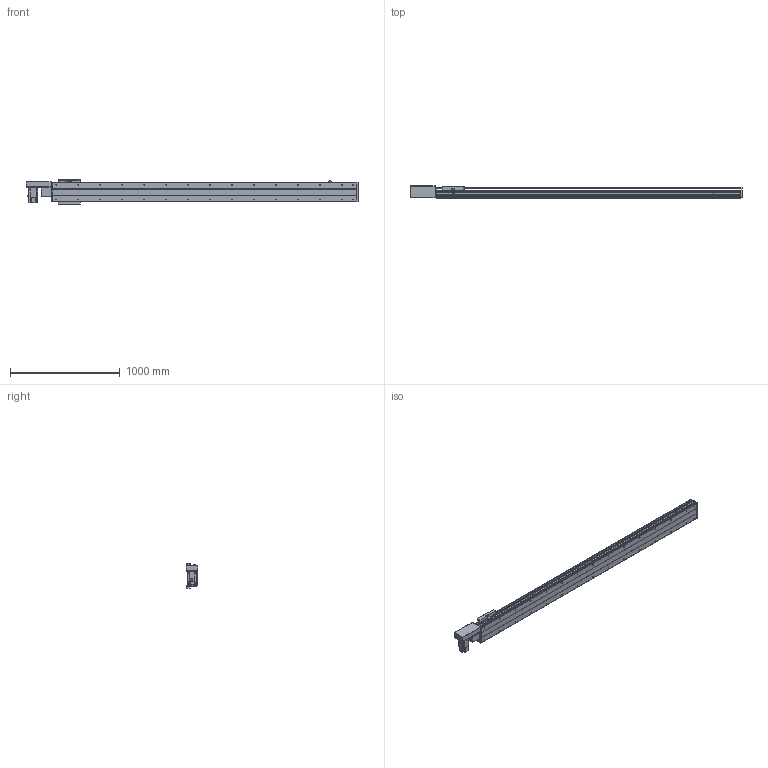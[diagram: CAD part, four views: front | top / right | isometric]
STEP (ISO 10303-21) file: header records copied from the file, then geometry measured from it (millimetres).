
FILE_DESCRIPTION(/* description */ ('STEP AP214'),/* implementation_level */ '2;1');
FILE_NAME(/* name */ 'PBS200-P40-S2400-R-T75-C1-N(0)',/* time_stamp */ '2022-06-11T08:10:30+02:00',/* author */ ('License CC BY-ND 4.0'),/* organization */ ('CADENAS'),/* preprocessor_version */ 'ST-DEVELOPER v18.102',/* originating_system */ 'PARTsolutions',/* authorisation */ ' ');
FILE_SCHEMA (('AUTOMOTIVE_DESIGN {1 0 10303 214 3 1 1}'));
Length unit declared in the file: millimetre
Products named in the file (7): PBS200-P40-S2400-R-T75-C1-N(0); PBS200_sensor; PBS200_plant; PBS200_sliser; T75-p1; PBS200T-R_motors; PBS200-S2400()_body
Assembly tree (8 placements, depth 2):
  PBS200-P40-S2400-R-T75-C1-N(0)
    PBS200_sensor  x3
    PBS200_plant
    PBS200_sliser
    T75-p1
    PBS200T-R_motors
    PBS200-S2400()_body
Bounding box: 3022 x 109 x 221 mm (x, y, z)
Volume: 19979343 mm3; surface area: 3197974.6 mm2
Topology: 8 solids, 8 shells, 962 faces, 2444 edges, 1590 vertices
Faces by surface type: plane 588, cylinder 312, cone 62
Full cylindrical faces by diameter (mm): 2.459 x6, 3.242 x4, 4.5 x6, 4.917 x4, 5 x6, 6 x7, 6.6 x8, 6.647 x34, 8 x6, 10 x4, 12 x8, 38 x2, 40 x1, 70 x1
Entity records: 25421 total; most frequent: DIRECTION 4495, CARTESIAN_POINT 4318, ORIENTED_EDGE 4066, EDGE_CURVE 2033, AXIS2_PLACEMENT_3D 1591, VERTEX_POINT 1414, LINE 1313, VECTOR 1313
